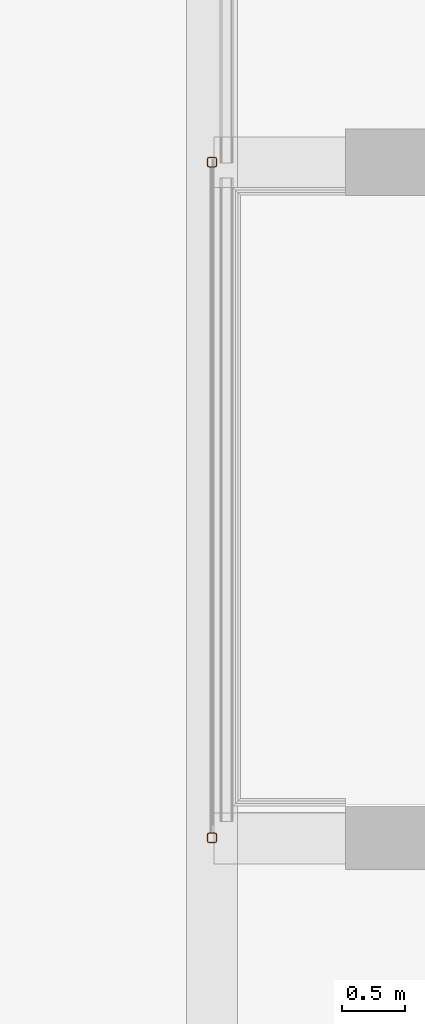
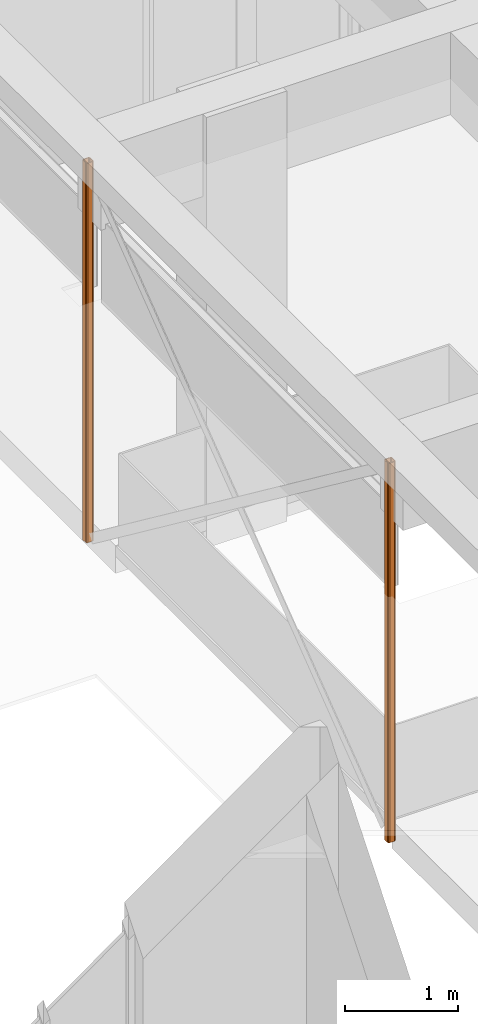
# One storey, part 104 of 117: 2 proxies.
"""IFC2X3 building model written with IfcOpenShell, lengths in millimetres."""

from ifc_helpers import new_model, entity, si_unit, converted_unit, derived_unit, money_unit, direction, frame, origin_with_axes, place, context, subcontext, project, spatial, faceted_brep, source, transform, mapped, material, type_object, type_shapes, element, save


model = new_model("IFC2X3")

# Units and contexts
model_context = context("Model", 3, precision=0.01, world=origin_with_axes(), true_north=direction((0.0, 1.0)))
body_context = subcontext(model_context, "Body", "Model", "MODEL_VIEW")
ifc_project = project(units=[si_unit("LENGTHUNIT", "METRE", prefix="MILLI"), si_unit("AREAUNIT", "SQUARE_METRE"), si_unit("VOLUMEUNIT", "CUBIC_METRE"), converted_unit("PLANEANGLEUNIT", "DEGREE", entity("IfcPlaneAngleMeasure", 0.0174532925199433), si_unit("PLANEANGLEUNIT", "RADIAN"), dimensions=[0, 0, 0, 0, 0, 0, 0]), money_unit("EUR"), converted_unit("TIMEUNIT", "Year", entity("IfcTimeMeasure", 31557600.0), si_unit("TIMEUNIT", "SECOND"), dimensions=[0, 0, 1, 0, 0, 0, 0]), si_unit("MASSUNIT", "GRAM", prefix="KILO"), si_unit("THERMODYNAMICTEMPERATUREUNIT", "DEGREE_CELSIUS"), si_unit("LUMINOUSINTENSITYUNIT", "LUMEN"), si_unit("ENERGYUNIT", "JOULE", prefix="MEGA"), derived_unit("THERMALCONDUCTANCEUNIT", [(si_unit("POWERUNIT", "WATT"), 1), (si_unit("LENGTHUNIT", "METRE"), -1), (si_unit("THERMODYNAMICTEMPERATUREUNIT", "KELVIN"), -1)]), derived_unit("SPECIFICHEATCAPACITYUNIT", [(si_unit("ENERGYUNIT", "JOULE"), 1), (si_unit("MASSUNIT", "GRAM", prefix="KILO"), -1), (si_unit("THERMODYNAMICTEMPERATUREUNIT", "KELVIN"), -1)]), derived_unit("MASSDENSITYUNIT", [(si_unit("MASSUNIT", "GRAM", prefix="KILO"), 1), (si_unit("VOLUMEUNIT", "CUBIC_METRE"), -1)])], contexts=[model_context])

# Site, building, storey
site_placement = place(None, origin_with_axes())
site = spatial("IfcSite", under=ifc_project, at=site_placement, Name="Site", CompositionType="ELEMENT")
building_placement = place(site_placement, origin_with_axes())
building = spatial("IfcBuilding", under=site, at=building_placement, Name="Naam gebouw", CompositionType="ELEMENT")
storey_placement = place(building_placement, frame((0.0, 0.0, 4150.0), z_axis=(0.0, 0.0, 1.0), x_axis=(1.0, 0.0, 0.0)))
storey = spatial("IfcBuildingStorey", under=building, at=storey_placement, Name="1e verdieping N", CompositionType="ELEMENT", Elevation=4150.0)

# Proxies
ifc_material = material(Name="Metaal - Staal AFW")
building_element_proxy_type = type_object("IfcBuildingElementProxyType", Name="Buis vk warmgew kolom 27", PredefinedType="NOTDEFINED")
shared_shape = source(origin_with_axes(), body_context, "Body", "Brep", [
    faceted_brep([(24.0, -40.0, 0.0), (24.0, -40.0, 4089.999999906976), (-24.0, -40.0, 4089.999999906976), (-24.0, -40.0, 0.0), (35.31370849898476, -35.31370849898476, 0.0), (35.31370849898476, -35.31370849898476, 4089.999999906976), (40.0, -24.0, 4089.999999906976), (40.00000000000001, 24.0, 4089.999999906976), (35.31370849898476, 35.31370849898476, 4089.999999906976), (24.0, 40.0, 4089.999999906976), (-24.0, 40.00000000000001, 4089.999999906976), (-35.31370849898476, 35.31370849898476, 4089.999999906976), (-40.0, 24.0, 4089.999999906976), (-40.0, -24.0, 4089.999999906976), (-35.31370849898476, -35.31370849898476, 4089.999999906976), (24.0, -32.0, 4089.999999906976), (-24.0, -32.0, 4089.999999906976), (-29.65685424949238, -29.65685424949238, 4089.999999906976), (-32.0, -24.0, 4089.999999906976), (-32.0, 24.0, 4089.999999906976), (-29.65685424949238, 29.65685424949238, 4089.999999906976), (-24.0, 32.0, 4089.999999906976), (24.0, 32.0, 4089.999999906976), (29.65685424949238, 29.65685424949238, 4089.999999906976), (32.0, 24.0, 4089.999999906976), (32.0, -24.0, 4089.999999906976), (29.65685424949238, -29.65685424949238, 4089.999999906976), (-35.31370849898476, -35.31370849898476, 0.0), (-40.0, -24.0, 0.0), (-40.0, 24.0, 0.0), (-35.31370849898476, 35.31370849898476, 0.0), (-24.0, 40.00000000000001, 0.0), (24.0, 40.0, 0.0), (35.31370849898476, 35.31370849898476, 0.0), (40.00000000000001, 24.0, 0.0), (40.0, -24.0, 0.0), (24.0, -32.0, 0.0), (29.65685424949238, -29.65685424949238, 0.0), (32.0, -24.0, 0.0), (32.0, 24.0, 0.0), (29.65685424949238, 29.65685424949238, 0.0), (24.0, 32.0, 0.0), (-24.0, 32.0, 0.0), (-29.65685424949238, 29.65685424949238, 0.0), (-32.0, 24.0, 0.0), (-32.0, -24.0, 0.0), (-29.65685424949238, -29.65685424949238, 0.0), (-24.0, -32.0, 0.0)], [[[0, 1, 2, 3]], [[4, 5, 1, 0]], [[1, 5, 6, 7, 8, 9, 10, 11, 12, 13, 14, 2], [15, 16, 17, 18, 19, 20, 21, 22, 23, 24, 25, 26]], [[3, 2, 14, 27]], [[0, 3, 27, 28, 29, 30, 31, 32, 33, 34, 35, 4], [36, 37, 38, 39, 40, 41, 42, 43, 44, 45, 46, 47]], [[35, 6, 5, 4]], [[34, 7, 6, 35]], [[33, 8, 7, 34]], [[32, 9, 8, 33]], [[31, 10, 9, 32]], [[30, 11, 10, 31]], [[29, 12, 11, 30]], [[28, 13, 12, 29]], [[27, 14, 13, 28]], [[47, 16, 15, 36]], [[46, 17, 16, 47]], [[45, 18, 17, 46]], [[44, 19, 18, 45]], [[43, 20, 19, 44]], [[42, 21, 20, 43]], [[41, 22, 21, 42]], [[40, 23, 22, 41]], [[39, 24, 23, 40]], [[38, 25, 24, 39]], [[37, 26, 25, 38]], [[36, 15, 26, 37]]]),
])
type_shapes(building_element_proxy_type, [shared_shape])
for number, where, z_axis, x_axis, name in (
    (1, (20370.99999999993, 22625.91242510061, 0.0), (0.0, 0.0, 1.0), (0.0, -1.0, 0.0), "_Boom-x"),
    (2, (20370.99999999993, 27955.91242510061, 0.0), (0.0, 0.0, 1.0), (0.0, -1.0, 0.0), "_Boom-x"),
):
    element("IfcBuildingElementProxy", number, at=place(storey_placement, frame(where, z_axis=z_axis, x_axis=x_axis)), inside=storey, type_object=building_element_proxy_type, material=ifc_material, Name=name, context=body_context, shape_type="MappedRepresentation", body=[
        mapped(shared_shape, transform((0.0, 0.0, 0.0))),
    ])

save(model, "model.ifc")
